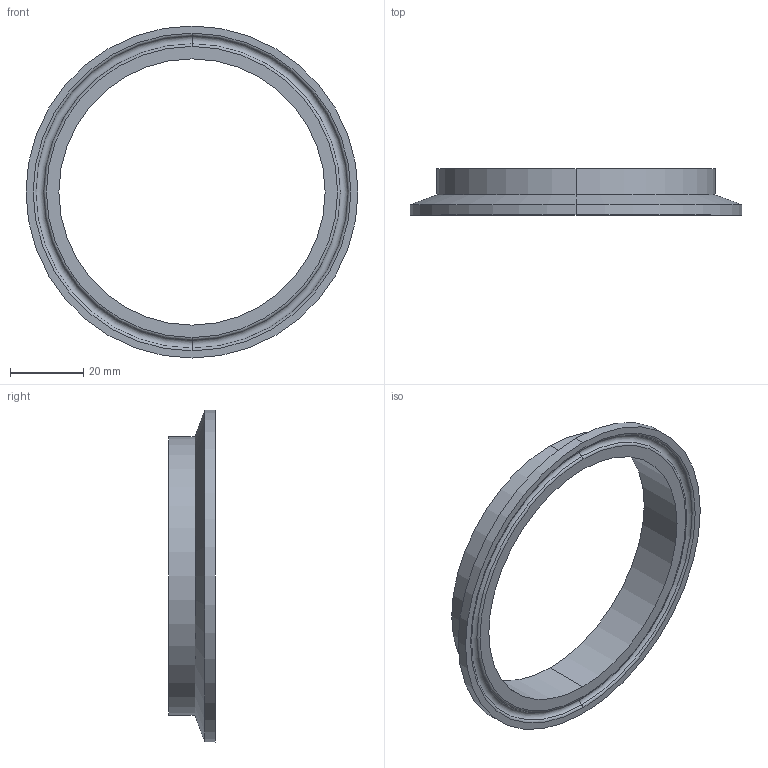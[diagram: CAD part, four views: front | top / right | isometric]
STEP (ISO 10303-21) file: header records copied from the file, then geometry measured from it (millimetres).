
FILE_DESCRIPTION (( 'STEP AP203' ), '1' );
FILE_NAME ('EG2CS3.0.STEP', '2018-04-30T14:00:30', ( 'vneprd' ), ( 'Microsoft' ), 'SwSTEP 2.0', 'SolidWorks 2014', '' );
FILE_SCHEMA (( 'CONFIG_CONTROL_DESIGN' ));
Length unit declared in the file: inch
Products named in the file (1): EG2CS3.0
Bounding box: 90.91 x 12.7 x 90.91 mm (x, y, z)
Volume: 12289.1 mm3; surface area: 10450.6 mm2
Topology: 1 solids, 1 shells, 17 faces, 34 edges, 20 vertices
Faces by surface type: cylinder 6, torus 6, plane 3, cone 2
Entity records: 533 total; most frequent: DIRECTION 96, CARTESIAN_POINT 72, ORIENTED_EDGE 68, AXIS2_PLACEMENT_3D 44, EDGE_CURVE 34, CIRCLE 26, VERTEX_POINT 20, EDGE_LOOP 20
